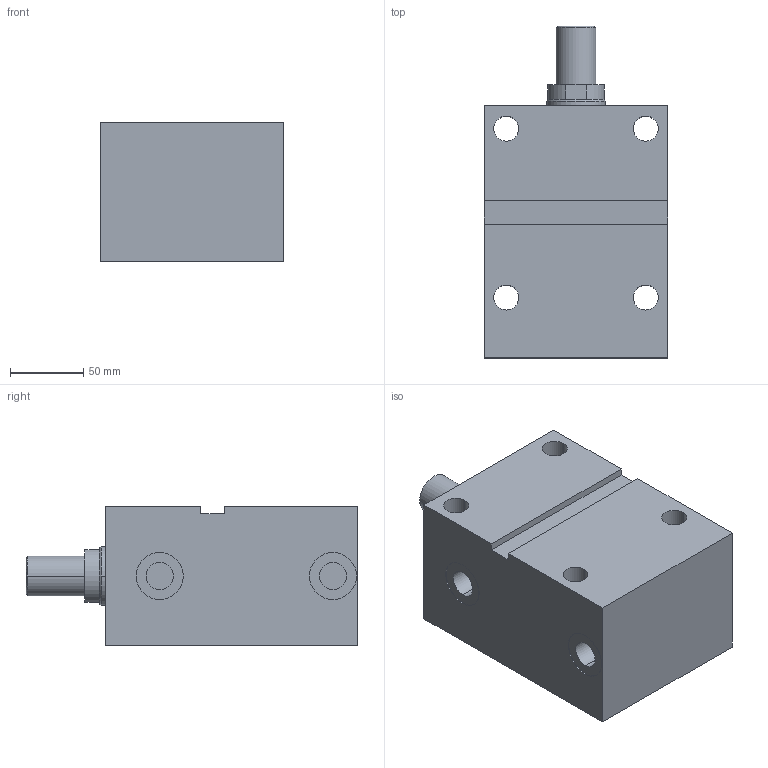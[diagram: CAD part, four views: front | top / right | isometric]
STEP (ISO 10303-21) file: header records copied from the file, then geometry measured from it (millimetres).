
FILE_DESCRIPTION (( 'STEP AP203' ), '1' );
FILE_NAME ('GERMA_Blockzylinder_601-063-100-A.STEP', '2015-07-16T13:01:10', ( '' ), ( '' ), 'SwSTEP 2.0', 'SolidWorks 2015', '' );
FILE_SCHEMA (( 'CONFIG_CONTROL_DESIGN' ));
Length unit declared in the file: millimetre
Products named in the file (3): GH-600-063_GH-601-063-100; Kolben 60x-063_Kolben DU.63-Hub100-AG; GERMA_Blockzylinder_601-063-100-A
Assembly tree (2 placements, depth 2):
  GERMA_Blockzylinder_601-063-100-A
    GH-600-063_GH-601-063-100
    Kolben 60x-063_Kolben DU.63-Hub100-AG
Bounding box: 125 x 226 x 95 mm (x, y, z)
Volume: 1788979.9 mm3; surface area: 187385.8 mm2
Topology: 2 solids, 2 shells, 73 faces, 162 edges, 101 vertices
Faces by surface type: cylinder 35, plane 26, cone 12
Entity records: 2330 total; most frequent: DIRECTION 395, CARTESIAN_POINT 337, ORIENTED_EDGE 316, AXIS2_PLACEMENT_3D 159, EDGE_CURVE 158, VERTEX_POINT 101, EDGE_LOOP 93, CIRCLE 81
